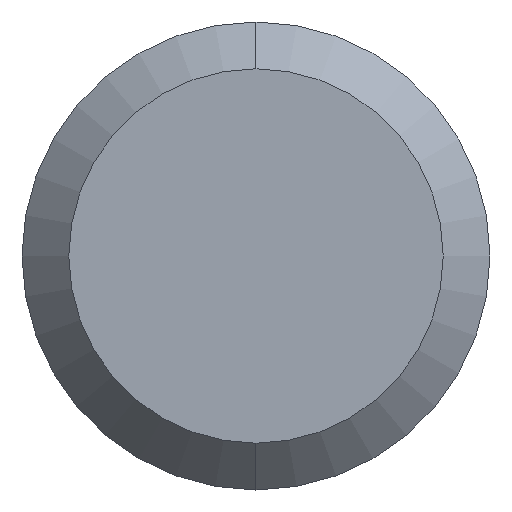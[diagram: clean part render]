
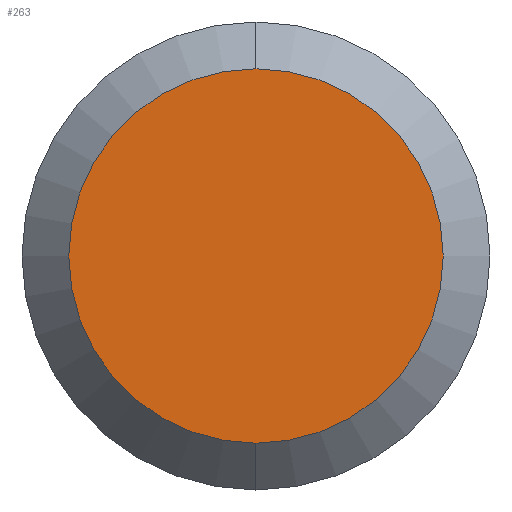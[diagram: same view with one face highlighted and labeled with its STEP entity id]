
A CAD part, left-side view. The second image highlights one B-rep face of the part: STEP entity #263.
In plain terms, the highlighted planar face has unit normal (-1, 0, 0).
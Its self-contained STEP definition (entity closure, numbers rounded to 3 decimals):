
#14 = PLANE ( 'NONE',  #157 ) ;
#21 = CARTESIAN_POINT ( 'NONE',  ( 0., 0., 0. ) ) ;
#33 = EDGE_LOOP ( 'NONE', ( #193, #269 ) ) ;
#46 = DIRECTION ( 'NONE',  ( -1., 0., 0. ) ) ;
#58 = AXIS2_PLACEMENT_3D ( 'NONE', #239, #183, #219 ) ;
#66 = DIRECTION ( 'NONE',  ( 0., 0., -1. ) ) ;
#68 = CARTESIAN_POINT ( 'NONE',  ( 0., 4.8, 0. ) ) ;
#80 = VERTEX_POINT ( 'NONE', #179 ) ;
#89 = CARTESIAN_POINT ( 'NONE',  ( 0., 0., -4.8 ) ) ;
#106 = VERTEX_POINT ( 'NONE', #89 ) ;
#110 = CIRCLE ( 'NONE', #58, 4.8 ) ;
#131 = EDGE_CURVE ( 'NONE', #106, #80, #110, .T. ) ;
#142 = FACE_OUTER_BOUND ( 'NONE', #33, .T. ) ;
#148 = DIRECTION ( 'NONE',  ( 1., 0., 0. ) ) ;
#157 = AXIS2_PLACEMENT_3D ( 'NONE', #68, #148, #66 ) ;
#179 = CARTESIAN_POINT ( 'NONE',  ( 0., 0., 4.8 ) ) ;
#183 = DIRECTION ( 'NONE',  ( -1., 0., 0. ) ) ;
#193 = ORIENTED_EDGE ( 'NONE', *, *, #131, .T. ) ;
#219 = DIRECTION ( 'NONE',  ( 0., 0., 1. ) ) ;
#226 = DIRECTION ( 'NONE',  ( 0., 0., 1. ) ) ;
#239 = CARTESIAN_POINT ( 'NONE',  ( 0., 0., 0. ) ) ;
#252 = EDGE_CURVE ( 'NONE', #80, #106, #295, .T. ) ;
#263 = ADVANCED_FACE ( 'NONE', ( #142 ), #14, .F. ) ;
#269 = ORIENTED_EDGE ( 'NONE', *, *, #252, .T. ) ;
#288 = AXIS2_PLACEMENT_3D ( 'NONE', #21, #46, #226 ) ;
#295 = CIRCLE ( 'NONE', #288, 4.8 ) ;
